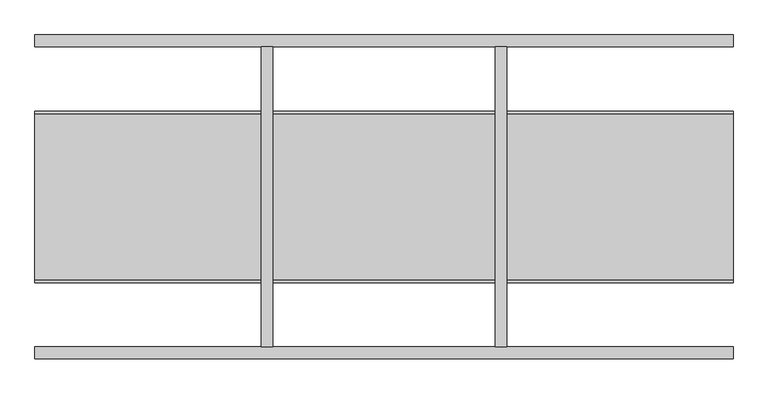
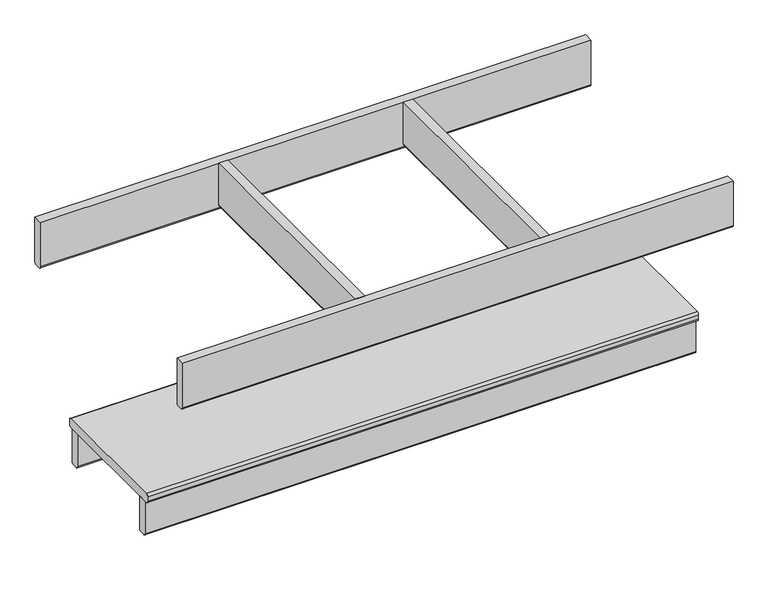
"""IFC4 building model written with IfcOpenShell, lengths in millimetres: furniture geometry, SSL-Childcraft_Outdoor-Table-Rectangle : 2161362."""

from ifc_helpers import new_model, si_unit, point, frame, frame_2d, origin, place, context, project, spatial, polyline, circle_curve, trimmed, segment, composite_curve, outline, extrude, source, transform, mapped, element, save


def furniture_e8232bf5(model_context):
    return source(origin(), model_context, "Body", "SweptSolid", [
        extrude(outline(composite_curve([segment(polyline([(590.55, -180.975), (590.55, -200.025), (500.0625, -200.025)]), True, "CONTINUOUS"), segment(trimmed(circle_curve(frame_2d((500.0625, -195.2625)), 4.7625), [point((500.0625, -200.025))], [point((495.3, -195.2625))], False, "CARTESIAN"), True, "CONTINUOUS"), segment(polyline([(495.3, -195.2625), (495.3, -185.7375)]), True, "CONTINUOUS"), segment(trimmed(circle_curve(frame_2d((500.0625, -185.7375)), 4.7625), [point((495.3, -185.7375))], [point((500.0625, -180.975))], False, "CARTESIAN"), True, "CONTINUOUS"), segment(polyline([(500.0625, -180.975), (590.55, -180.975)]), True, "CONTINUOUS")], self_intersect=False)), frame((0.0, -244.475, 0.0), z_axis=(0.0, 1.0, 0.0), x_axis=(0.0, 0.0, 1.0)), (0.0, 0.0, 1.0), 488.9503295),
        extrude(outline(composite_curve([segment(polyline([(590.55, 200.025), (590.55, 180.975), (500.0625, 180.975)]), True, "CONTINUOUS"), segment(trimmed(circle_curve(frame_2d((500.0625, 185.7375)), 4.7625), [point((500.0625, 180.975))], [point((495.3, 185.7375))], False, "CARTESIAN"), True, "CONTINUOUS"), segment(polyline([(495.3, 185.7375), (495.3, 195.2625)]), True, "CONTINUOUS"), segment(trimmed(circle_curve(frame_2d((500.0625, 195.2625)), 4.7625), [point((495.3, 195.2625))], [point((500.0625, 200.025))], False, "CARTESIAN"), True, "CONTINUOUS"), segment(polyline([(500.0625, 200.025), (590.55, 200.025)]), True, "CONTINUOUS")], self_intersect=False)), frame((0.0, -244.475, 0.0), z_axis=(0.0, 1.0, 0.0), x_axis=(0.0, 0.0, 1.0)), (0.0, 0.0, 1.0), 488.9503295),
        extrude(outline(composite_curve([segment(polyline([(209.55, -180.975), (209.55, -200.025), (144.4625, -200.025)]), True, "CONTINUOUS"), segment(trimmed(circle_curve(frame_2d((144.4625, -195.2625)), 4.7625), [point((144.4625, -200.025))], [point((139.7, -195.2625))], False, "CARTESIAN"), True, "CONTINUOUS"), segment(polyline([(139.7, -195.2625), (139.7, -185.7375)]), True, "CONTINUOUS"), segment(trimmed(circle_curve(frame_2d((144.4625, -185.7375)), 4.7625), [point((139.7, -185.7375))], [point((144.4625, -180.975))], False, "CARTESIAN"), True, "CONTINUOUS"), segment(polyline([(144.4625, -180.975), (209.55, -180.975)]), True, "CONTINUOUS")], self_intersect=False)), frame((0.0, -111.1249176, 0.0), z_axis=(0.0, 1.0, 0.0), x_axis=(0.0, 0.0, 1.0)), (0.0, 0.0, 1.0), 222.25),
        extrude(outline(composite_curve([segment(polyline([(209.55, 200.025), (209.55, 180.975), (144.4625, 180.975)]), True, "CONTINUOUS"), segment(trimmed(circle_curve(frame_2d((144.4625, 185.7375)), 4.7625), [point((144.4625, 180.975))], [point((139.7, 185.7375))], False, "CARTESIAN"), True, "CONTINUOUS"), segment(polyline([(139.7, 185.7375), (139.7, 195.2625)]), True, "CONTINUOUS"), segment(trimmed(circle_curve(frame_2d((144.4625, 195.2625)), 4.7625), [point((139.7, 195.2625))], [point((144.4625, 200.025))], False, "CARTESIAN"), True, "CONTINUOUS"), segment(polyline([(144.4625, 200.025), (209.55, 200.025)]), True, "CONTINUOUS")], self_intersect=False)), frame((0.0, -111.1249176, 0.0), z_axis=(0.0, 1.0, 0.0), x_axis=(0.0, 0.0, 1.0)), (0.0, 0.0, 1.0), 222.25),
        extrude(outline(composite_curve([segment(trimmed(circle_curve(frame_2d((-134.9374176, 214.3125)), 4.7625), [point((-134.9374176, 209.55))], [point((-139.6999176, 214.3125))], False, "CARTESIAN"), True, "CONTINUOUS"), segment(polyline([(-139.6999176, 214.3125), (-139.6999176, 223.8375)]), True, "CONTINUOUS"), segment(trimmed(circle_curve(frame_2d((-134.9374176, 223.8375)), 4.7625), [point((-139.6999176, 223.8375))], [point((-134.9374176, 228.6))], False, "CARTESIAN"), True, "CONTINUOUS"), segment(polyline([(-134.9374176, 228.6), (134.9375824, 228.6)]), True, "CONTINUOUS"), segment(trimmed(circle_curve(frame_2d((134.9375824, 223.8375)), 4.7625), [point((134.9375824, 228.6))], [point((139.7000824, 223.8375))], False, "CARTESIAN"), True, "CONTINUOUS"), segment(polyline([(139.7000824, 223.8375), (139.7000824, 214.3125)]), True, "CONTINUOUS"), segment(trimmed(circle_curve(frame_2d((134.9375824, 214.3125)), 4.7625), [point((139.7000824, 214.3125))], [point((134.9375824, 209.55))], False, "CARTESIAN"), True, "CONTINUOUS"), segment(polyline([(134.9375824, 209.55), (-134.9374176, 209.55)]), True, "CONTINUOUS")], self_intersect=False)), frame((-568.325, 0.0, 0.0), z_axis=(1.0, 0.0, 0.0), x_axis=(0.0, 1.0, 0.0)), (0.0, 0.0, 1.0), 1136.65),
        extrude(outline(composite_curve([segment(polyline([(244.4753295, 590.55), (263.5253295, 590.55), (263.5253295, 493.7252)]), True, "CONTINUOUS"), segment(trimmed(circle_curve(frame_2d((258.7501295, 493.7252)), 4.7752), [point((263.5253295, 493.7252))], [point((258.7501295, 488.95))], False, "CARTESIAN"), True, "CONTINUOUS"), segment(polyline([(258.7501295, 488.95), (249.2378295, 488.95)]), True, "CONTINUOUS"), segment(trimmed(circle_curve(frame_2d((249.2378295, 493.7125)), 4.7625), [point((249.2378295, 488.95))], [point((244.4753295, 493.7125))], False, "CARTESIAN"), True, "CONTINUOUS"), segment(polyline([(244.4753295, 493.7125), (244.4753295, 590.55)]), True, "CONTINUOUS")], self_intersect=False)), frame((-568.325, 0.0, 0.0), z_axis=(1.0, 0.0, 0.0), x_axis=(0.0, 1.0, 0.0)), (0.0, 0.0, 1.0), 1136.65),
        extrude(outline(composite_curve([segment(polyline([(-263.525, 590.55), (-244.475, 590.55), (-244.475, 493.7125)]), True, "CONTINUOUS"), segment(trimmed(circle_curve(frame_2d((-249.2375, 493.7125)), 4.7625), [point((-244.475, 493.7125))], [point((-249.2375, 488.95))], False, "CARTESIAN"), True, "CONTINUOUS"), segment(polyline([(-249.2375, 488.95), (-258.7625, 488.95)]), True, "CONTINUOUS"), segment(trimmed(circle_curve(frame_2d((-258.7625, 493.7125)), 4.7625), [point((-258.7625, 488.95))], [point((-263.525, 493.7125))], False, "CARTESIAN"), True, "CONTINUOUS"), segment(polyline([(-263.525, 493.7125), (-263.525, 590.55)]), True, "CONTINUOUS")], self_intersect=False)), frame((-568.325, 0.0, 0.0), z_axis=(1.0, 0.0, 0.0), x_axis=(0.0, 1.0, 0.0)), (0.0, 0.0, 1.0), 1136.65),
        extrude(outline(composite_curve([segment(polyline([(111.1250824, 209.55), (130.1750824, 209.55), (130.1750824, 138.1125)]), True, "CONTINUOUS"), segment(trimmed(circle_curve(frame_2d((125.4125824, 138.1125)), 4.7625), [point((130.1750824, 138.1125))], [point((125.4125824, 133.35))], False, "CARTESIAN"), True, "CONTINUOUS"), segment(polyline([(125.4125824, 133.35), (115.8875824, 133.35)]), True, "CONTINUOUS"), segment(trimmed(circle_curve(frame_2d((115.8875824, 138.1125)), 4.7625), [point((115.8875824, 133.35))], [point((111.1250824, 138.1125))], False, "CARTESIAN"), True, "CONTINUOUS"), segment(polyline([(111.1250824, 138.1125), (111.1250824, 209.55)]), True, "CONTINUOUS")], self_intersect=False)), frame((-568.325, 0.0, 0.0), z_axis=(1.0, 0.0, 0.0), x_axis=(0.0, 1.0, 0.0)), (0.0, 0.0, 1.0), 1136.65),
        extrude(outline(composite_curve([segment(polyline([(-130.1749176, 209.55), (-111.1249176, 209.55), (-111.1249176, 138.1125)]), True, "CONTINUOUS"), segment(trimmed(circle_curve(frame_2d((-115.8874176, 138.1125)), 4.7625), [point((-111.1249176, 138.1125))], [point((-115.8874176, 133.35))], False, "CARTESIAN"), True, "CONTINUOUS"), segment(polyline([(-115.8874176, 133.35), (-125.4124176, 133.35)]), True, "CONTINUOUS"), segment(trimmed(circle_curve(frame_2d((-125.4124176, 138.1125)), 4.7625), [point((-125.4124176, 133.35))], [point((-130.1749176, 138.1125))], False, "CARTESIAN"), True, "CONTINUOUS"), segment(polyline([(-130.1749176, 138.1125), (-130.1749176, 209.55)]), True, "CONTINUOUS")], self_intersect=False)), frame((-568.325, 0.0, 0.0), z_axis=(1.0, 0.0, 0.0), x_axis=(0.0, 1.0, 0.0)), (0.0, 0.0, 1.0), 1136.65),
    ])


if __name__ == "__main__":
    model = new_model("IFC4")
    model_context = context("Model", 3, world=origin())
    ifc_project = project(units=[si_unit("LENGTHUNIT", "METRE", prefix="MILLI")], contexts=[model_context])
    site = spatial("IfcSite", under=ifc_project)
    building = spatial("IfcBuilding", under=site)
    placement = place(None, origin())
    furniture_shape = furniture_e8232bf5(model_context)
    element("IfcFurniture", 1, ObjectType="SSL-Childcraft_Outdoor-Table-Rectangle : 2161362", at=placement, inside=building, context=model_context, shape_type="MappedRepresentation", body=[
        mapped(furniture_shape, transform((0.0, 0.0, 0.0), x_axis=(1.0, 0.0, 0.0), y_axis=(0.0, 1.0, 0.0), z_axis=(0.0, 0.0, 1.0))),
    ])
    save(model, "model.ifc")
